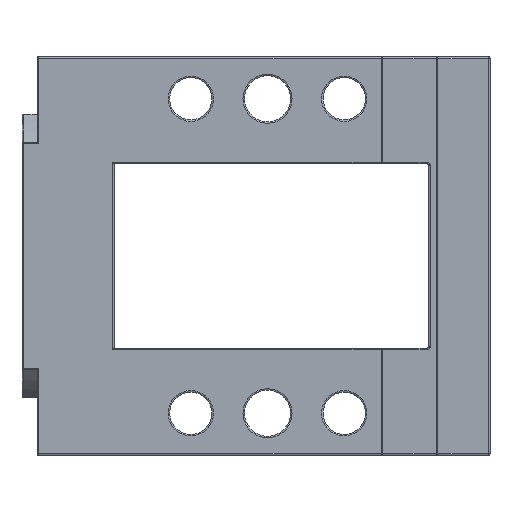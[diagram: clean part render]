
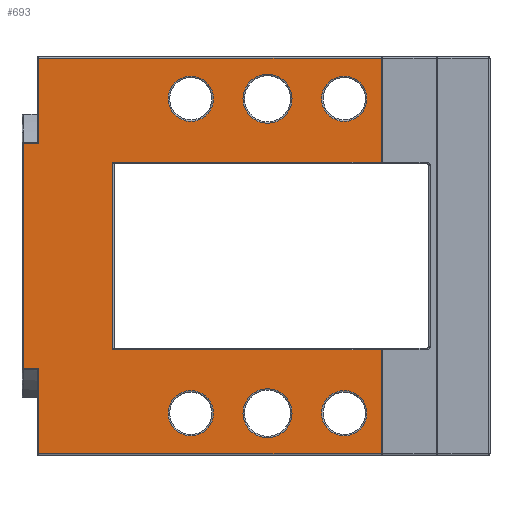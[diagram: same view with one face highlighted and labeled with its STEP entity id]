
A CAD part, front view. The second image highlights one B-rep face of the part: STEP entity #693.
In plain terms, the highlighted planar face has unit normal (0, -1, 0).
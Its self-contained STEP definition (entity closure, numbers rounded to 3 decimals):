
#520=CIRCLE('',#4588,3.2);
#522=CIRCLE('',#4591,3.2);
#524=CIRCLE('',#4594,2.95);
#526=CIRCLE('',#4597,2.95);
#528=CIRCLE('',#4600,2.95);
#530=CIRCLE('',#4603,2.95);
#693=ADVANCED_FACE('',(#1683,#1684,#1685,#1686,#1687,#1688,#1689),#924,
 .F.);
#924=PLANE('',#4689);
#1074=LINE('',#6743,#1335);
#1075=LINE('',#6746,#1336);
#1076=LINE('',#6748,#1337);
#1077=LINE('',#6750,#1338);
#1078=LINE('',#6752,#1339);
#1079=LINE('',#6754,#1340);
#1080=LINE('',#6756,#1341);
#1081=LINE('',#6758,#1342);
#1082=LINE('',#6760,#1343);
#1083=LINE('',#6762,#1344);
#1084=LINE('',#6764,#1345);
#1085=LINE('',#6766,#1346);
#1335=VECTOR('',#5227,1.);
#1336=VECTOR('',#5228,1.);
#1337=VECTOR('',#5229,1.);
#1338=VECTOR('',#5230,1.);
#1339=VECTOR('',#5231,1.);
#1340=VECTOR('',#5232,1.);
#1341=VECTOR('',#5233,1.);
#1342=VECTOR('',#5234,1.);
#1343=VECTOR('',#5235,1.);
#1344=VECTOR('',#5236,1.);
#1345=VECTOR('',#5237,1.);
#1346=VECTOR('',#5238,1.);
#1683=FACE_BOUND('',#1841,.T.);
#1684=FACE_BOUND('',#1842,.T.);
#1685=FACE_BOUND('',#1843,.T.);
#1686=FACE_BOUND('',#1844,.T.);
#1687=FACE_BOUND('',#1845,.T.);
#1688=FACE_BOUND('',#1846,.T.);
#1689=FACE_BOUND('',#1847,.T.);
#1841=EDGE_LOOP('',(#2326));
#1842=EDGE_LOOP('',(#2327));
#1843=EDGE_LOOP('',(#2328));
#1844=EDGE_LOOP('',(#2329));
#1845=EDGE_LOOP('',(#2330));
#1846=EDGE_LOOP('',(#2331));
#1847=EDGE_LOOP('',(#2332,#2333,#2334,#2335,#2336,#2337,#2338,#2339,#2340,
#2341,#2342,#2343));
#2326=ORIENTED_EDGE('',*,*,#3835,.T.);
#2327=ORIENTED_EDGE('',*,*,#3833,.T.);
#2328=ORIENTED_EDGE('',*,*,#3831,.T.);
#2329=ORIENTED_EDGE('',*,*,#3829,.T.);
#2330=ORIENTED_EDGE('',*,*,#3827,.T.);
#2331=ORIENTED_EDGE('',*,*,#3825,.T.);
#2332=ORIENTED_EDGE('',*,*,#3932,.T.);
#2333=ORIENTED_EDGE('',*,*,#3933,.T.);
#2334=ORIENTED_EDGE('',*,*,#3934,.T.);
#2335=ORIENTED_EDGE('',*,*,#3935,.T.);
#2336=ORIENTED_EDGE('',*,*,#3936,.T.);
#2337=ORIENTED_EDGE('',*,*,#3937,.T.);
#2338=ORIENTED_EDGE('',*,*,#3938,.T.);
#2339=ORIENTED_EDGE('',*,*,#3939,.T.);
#2340=ORIENTED_EDGE('',*,*,#3940,.T.);
#2341=ORIENTED_EDGE('',*,*,#3941,.T.);
#2342=ORIENTED_EDGE('',*,*,#3942,.T.);
#2343=ORIENTED_EDGE('',*,*,#3943,.T.);
#3412=VERTEX_POINT('',#6484);
#3414=VERTEX_POINT('',#6489);
#3416=VERTEX_POINT('',#6494);
#3418=VERTEX_POINT('',#6499);
#3420=VERTEX_POINT('',#6504);
#3422=VERTEX_POINT('',#6509);
#3519=VERTEX_POINT('',#6744);
#3520=VERTEX_POINT('',#6745);
#3521=VERTEX_POINT('',#6747);
#3522=VERTEX_POINT('',#6749);
#3523=VERTEX_POINT('',#6751);
#3524=VERTEX_POINT('',#6753);
#3525=VERTEX_POINT('',#6755);
#3526=VERTEX_POINT('',#6757);
#3527=VERTEX_POINT('',#6759);
#3528=VERTEX_POINT('',#6761);
#3529=VERTEX_POINT('',#6763);
#3530=VERTEX_POINT('',#6765);
#3825=EDGE_CURVE('',#3412,#3412,#520,.T.);
#3827=EDGE_CURVE('',#3414,#3414,#522,.T.);
#3829=EDGE_CURVE('',#3416,#3416,#524,.T.);
#3831=EDGE_CURVE('',#3418,#3418,#526,.T.);
#3833=EDGE_CURVE('',#3420,#3420,#528,.T.);
#3835=EDGE_CURVE('',#3422,#3422,#530,.T.);
#3932=EDGE_CURVE('',#3519,#3520,#1074,.T.);
#3933=EDGE_CURVE('',#3520,#3521,#1075,.T.);
#3934=EDGE_CURVE('',#3521,#3522,#1076,.T.);
#3935=EDGE_CURVE('',#3522,#3523,#1077,.T.);
#3936=EDGE_CURVE('',#3523,#3524,#1078,.T.);
#3937=EDGE_CURVE('',#3524,#3525,#1079,.T.);
#3938=EDGE_CURVE('',#3525,#3526,#1080,.T.);
#3939=EDGE_CURVE('',#3526,#3527,#1081,.T.);
#3940=EDGE_CURVE('',#3527,#3528,#1082,.T.);
#3941=EDGE_CURVE('',#3528,#3529,#1083,.T.);
#3942=EDGE_CURVE('',#3529,#3530,#1084,.T.);
#3943=EDGE_CURVE('',#3530,#3519,#1085,.T.);
#4588=AXIS2_PLACEMENT_3D('',#6483,#4973,#4974);
#4591=AXIS2_PLACEMENT_3D('',#6488,#4979,#4980);
#4594=AXIS2_PLACEMENT_3D('',#6493,#4985,#4986);
#4597=AXIS2_PLACEMENT_3D('',#6498,#4991,#4992);
#4600=AXIS2_PLACEMENT_3D('',#6503,#4997,#4998);
#4603=AXIS2_PLACEMENT_3D('',#6508,#5003,#5004);
#4689=AXIS2_PLACEMENT_3D('',#6767,#5239,#5240);
#4973=DIRECTION('',(0.,1.,0.));
#4974=DIRECTION('',(0.,0.,1.));
#4979=DIRECTION('',(0.,1.,0.));
#4980=DIRECTION('',(0.,0.,1.));
#4985=DIRECTION('',(0.,1.,0.));
#4986=DIRECTION('',(0.,0.,1.));
#4991=DIRECTION('',(0.,1.,0.));
#4992=DIRECTION('',(0.,0.,1.));
#4997=DIRECTION('',(0.,1.,0.));
#4998=DIRECTION('',(0.,0.,1.));
#5003=DIRECTION('',(0.,1.,0.));
#5004=DIRECTION('',(0.,0.,1.));
#5227=DIRECTION('',(-1.,0.,0.));
#5228=DIRECTION('',(0.,0.,1.));
#5229=DIRECTION('',(1.,0.,0.));
#5230=DIRECTION('',(0.,0.,1.));
#5231=DIRECTION('',(-1.,0.,0.));
#5232=DIRECTION('',(0.,0.,-1.));
#5233=DIRECTION('',(-1.,0.,0.));
#5234=DIRECTION('',(0.,0.,-1.));
#5235=DIRECTION('',(1.,0.,0.));
#5236=DIRECTION('',(0.,0.,-1.));
#5237=DIRECTION('',(1.,0.,0.));
#5238=DIRECTION('',(0.,0.,1.));
#5239=DIRECTION('',(0.,1.,0.));
#5240=DIRECTION('',(0.,0.,-1.));
#6483=CARTESIAN_POINT('',(-29.,-17.,20.5));
#6484=CARTESIAN_POINT('',(-29.,-17.,23.7));
#6488=CARTESIAN_POINT('',(-29.,-17.,-20.5));
#6489=CARTESIAN_POINT('',(-29.,-17.,-17.3));
#6493=CARTESIAN_POINT('',(-19.,-17.,-20.5));
#6494=CARTESIAN_POINT('',(-19.,-17.,-17.55));
#6498=CARTESIAN_POINT('',(-39.,-17.,-20.5));
#6499=CARTESIAN_POINT('',(-39.,-17.,-17.55));
#6503=CARTESIAN_POINT('',(-19.,-17.,20.5));
#6504=CARTESIAN_POINT('',(-19.,-17.,23.45));
#6508=CARTESIAN_POINT('',(-39.,-17.,20.5));
#6509=CARTESIAN_POINT('',(-39.,-17.,23.45));
#6743=CARTESIAN_POINT('',(-49.,-17.,-12.2));
#6744=CARTESIAN_POINT('',(-14.2,-17.,-12.2));
#6745=CARTESIAN_POINT('',(-49.2,-17.,-12.2));
#6746=CARTESIAN_POINT('',(-49.2,-17.,12.));
#6747=CARTESIAN_POINT('',(-49.2,-17.,12.2));
#6748=CARTESIAN_POINT('',(-49.,-17.,12.2));
#6749=CARTESIAN_POINT('',(-14.2,-17.,12.2));
#6750=CARTESIAN_POINT('',(-14.2,-17.,-12.));
#6751=CARTESIAN_POINT('',(-14.2,-17.,25.8));
#6752=CARTESIAN_POINT('',(-49.,-17.,25.8));
#6753=CARTESIAN_POINT('',(-58.8,-17.,25.8));
#6754=CARTESIAN_POINT('',(-58.8,-17.,-12.));
#6755=CARTESIAN_POINT('',(-58.8,-17.,14.665));
#6756=CARTESIAN_POINT('',(-49.,-17.,14.665));
#6757=CARTESIAN_POINT('',(-60.8,-17.,14.665));
#6758=CARTESIAN_POINT('',(-60.8,-17.,-14.739));
#6759=CARTESIAN_POINT('',(-60.8,-17.,-14.665));
#6760=CARTESIAN_POINT('',(-49.,-17.,-14.665));
#6761=CARTESIAN_POINT('',(-58.8,-17.,-14.665));
#6762=CARTESIAN_POINT('',(-58.8,-17.,-12.));
#6763=CARTESIAN_POINT('',(-58.8,-17.,-25.8));
#6764=CARTESIAN_POINT('',(-49.,-17.,-25.8));
#6765=CARTESIAN_POINT('',(-14.2,-17.,-25.8));
#6766=CARTESIAN_POINT('',(-14.2,-17.,-12.));
#6767=CARTESIAN_POINT('',(-49.,-17.,-12.));
